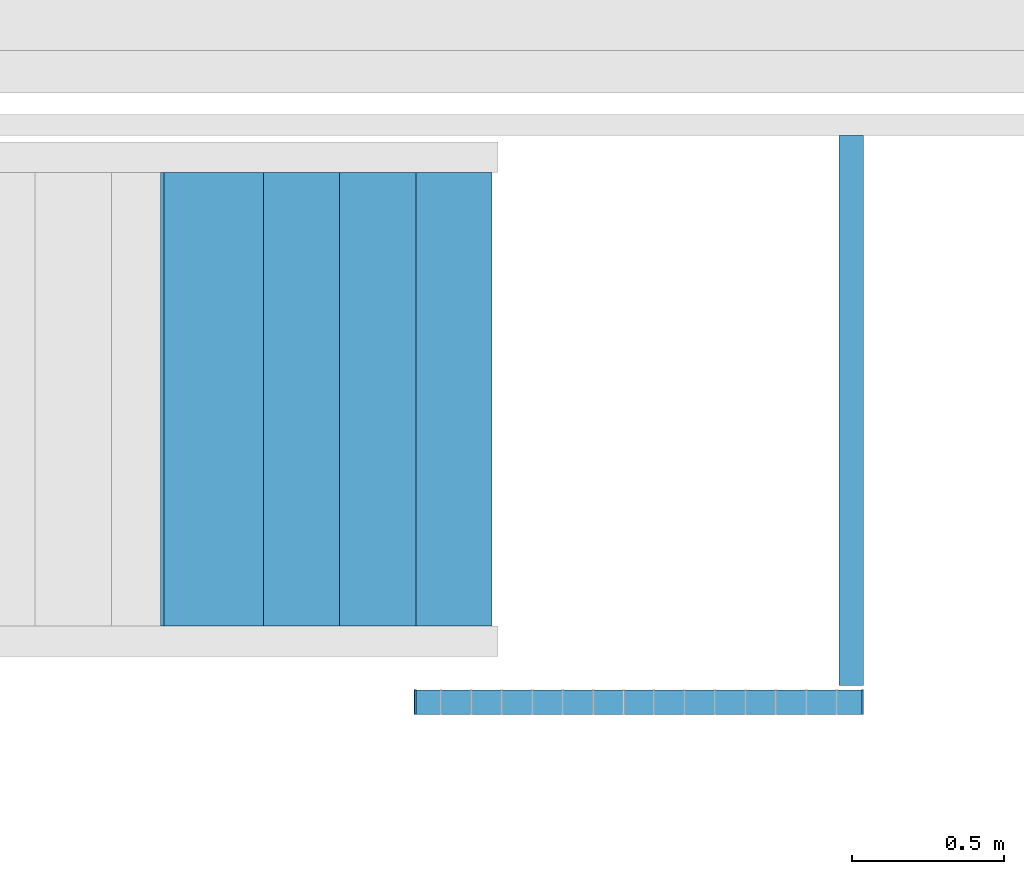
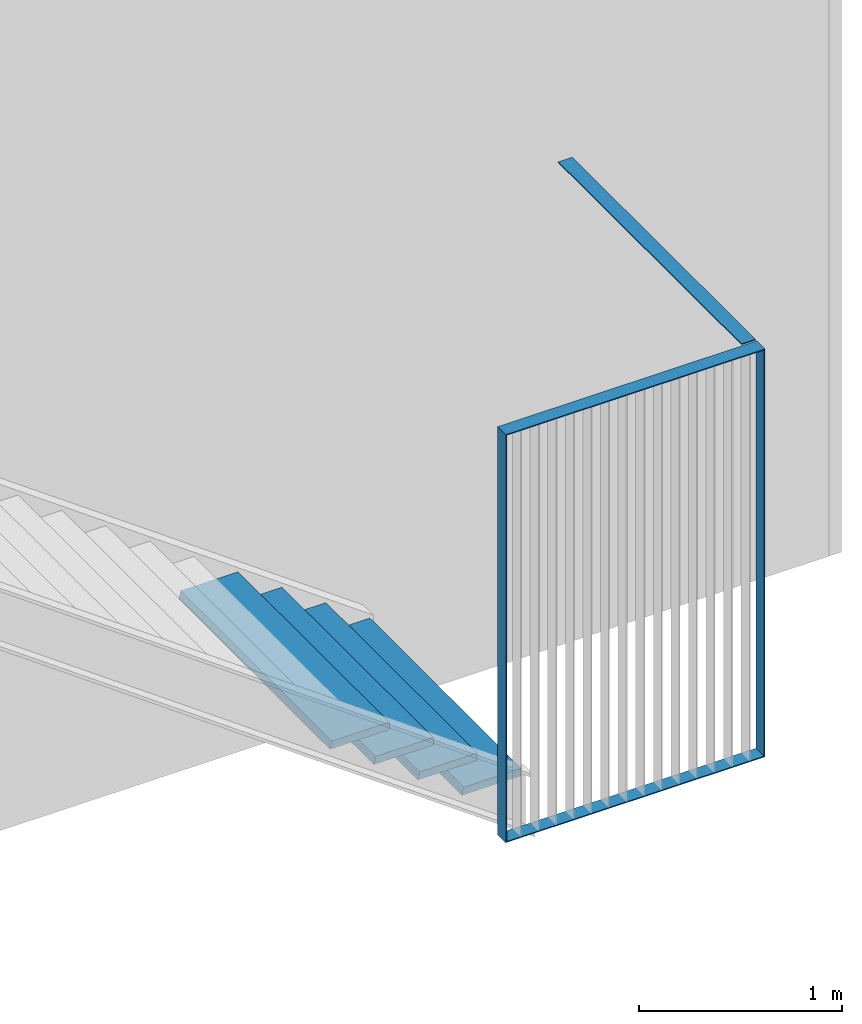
# One storey, part 30 of 347: 8 members, 1 beam, 2 elements without a shape of their own.
"""IFC2X3 building model written with IfcOpenShell, lengths in millimetres."""

from ifc_helpers import new_model, entity, si_unit, converted_unit, derived_unit, money_unit, direction, frame, origin_with_axes, place, context, subcontext, project, spatial, faceted_brep, material, type_object, element, aggregate, save


model = new_model("IFC2X3")

# Units and contexts
model_context = context("Model", 3, precision=0.01, world=origin_with_axes(), true_north=direction((0.0, 1.0)))
plan_context = context("Plan", 3, precision=0.01, world=origin_with_axes(), true_north=direction((0.0, 1.0)))
body_context = subcontext(model_context, "Body", "Model", "MODEL_VIEW")
ifc_project = project(units=[si_unit("LENGTHUNIT", "METRE", prefix="MILLI"), si_unit("AREAUNIT", "SQUARE_METRE"), si_unit("VOLUMEUNIT", "CUBIC_METRE"), converted_unit("PLANEANGLEUNIT", "DEGREE", entity("IfcPlaneAngleMeasure", 0.0174532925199), si_unit("PLANEANGLEUNIT", "RADIAN"), dimensions=[0, 0, 0, 0, 0, 0, 0]), money_unit("EUR"), converted_unit("TIMEUNIT", "Year", entity("IfcTimeMeasure", 31556926.0), si_unit("TIMEUNIT", "SECOND"), dimensions=[0, 0, 1, 0, 0, 0, 0]), si_unit("MASSUNIT", "GRAM", prefix="KILO"), si_unit("THERMODYNAMICTEMPERATUREUNIT", "DEGREE_CELSIUS"), si_unit("LUMINOUSINTENSITYUNIT", "LUMEN"), si_unit("ENERGYUNIT", "JOULE", prefix="MEGA"), derived_unit("THERMALCONDUCTANCEUNIT", [(si_unit("POWERUNIT", "WATT"), 1), (si_unit("LENGTHUNIT", "METRE"), -1), (si_unit("THERMODYNAMICTEMPERATUREUNIT", "KELVIN"), -1)]), derived_unit("SPECIFICHEATCAPACITYUNIT", [(si_unit("ENERGYUNIT", "JOULE"), 1), (si_unit("MASSUNIT", "GRAM", prefix="KILO"), -1), (si_unit("THERMODYNAMICTEMPERATUREUNIT", "KELVIN"), -1)]), derived_unit("MASSDENSITYUNIT", [(si_unit("MASSUNIT", "GRAM", prefix="KILO"), 1), (si_unit("VOLUMEUNIT", "CUBIC_METRE"), -1)])], contexts=[model_context, plan_context])

# Site, building, storey
site_placement = place(None, origin_with_axes())
site = spatial("IfcSite", under=ifc_project, at=site_placement, Name="Site", CompositionType="ELEMENT")
building_placement = place(site_placement, origin_with_axes())
building = spatial("IfcBuilding", under=site, at=building_placement, Name="Naam gebouw", CompositionType="ELEMENT")
storey_placement = place(building_placement, origin_with_axes())
storey = spatial("IfcBuildingStorey", under=building, at=storey_placement, Name="begane grond", CompositionType="ELEMENT", Elevation=0.0)

# Railing, members
railing_type = type_object("IfcRailingType", Name="Railing Type", PredefinedType="NOTDEFINED")
railing_placement = place(storey_placement, frame((53776.334071, 9964.99999938, 0.0), z_axis=(0.0, 0.0, 1.0), x_axis=(0.0, 1.0, 0.0)))
railing = element("IfcRailing", 1, at=railing_placement, inside=storey, type_object=railing_type, Name="_Reling-x", PredefinedType="NOTDEFINED")
ifc_material_1 = material(Name="Metaal - Aluminium")
member_type_1 = type_object("IfcMemberType", Name="IfcMember", PredefinedType="USERDEFINED")
member_1_placement = place(railing_placement, frame((0.0, 0.0, 0.0), z_axis=(0.0, 0.0, 1.0), x_axis=(0.0, -1.0, 0.0)))
member_1 = element("IfcMember", 2, at=member_1_placement, type_object=member_type_1, material=ifc_material_1, Name="_", context=body_context, shape_type="Brep", body=[
    faceted_brep([(-476.334135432, -15.0, 2400.0), (-470.334135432, -15.0, 2394.0), (-470.334135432, -15.0, -53.3920037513), (-476.334135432, -15.0, -53.3920037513), (-476.334135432, -95.0, 2400.0), (-470.334135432, -95.0, 2394.0), (-470.334135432, -95.0, -53.3920037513), (-476.334135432, -95.0, -53.3920037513)], [[[0, 1, 2, 3]], [[0, 4, 5, 1]], [[1, 5, 6, 2]], [[3, 2, 6, 7]], [[4, 0, 3, 7]], [[5, 4, 7, 6]]]),
])
member_2_placement = place(railing_placement, frame((0.0, 0.0, 0.0), z_axis=(0.0, 0.0, 1.0), x_axis=(0.0, -1.0, 0.0)))
member_2 = element("IfcMember", 3, at=member_2_placement, type_object=member_type_1, material=ifc_material_1, Name="_", context=body_context, shape_type="Brep", body=[
    faceted_brep([(998.665837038, -95.0, 2400.0), (992.665837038, -95.0, 2394.0), (992.665837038, -95.0, -50.0), (998.665837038, -95.0, -50.0), (998.665837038, -15.0, 2400.0), (992.665837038, -15.0, 2394.0), (992.665837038, -15.0, -50.0), (998.665837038, -15.0, -50.0)], [[[0, 1, 2, 3]], [[0, 4, 5, 1]], [[1, 5, 6, 2]], [[3, 2, 6, 7]], [[4, 0, 3, 7]], [[5, 4, 7, 6]]]),
])
member_3_placement = place(railing_placement, frame((-55.0, -261.165850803, 2359.55250317), z_axis=(0.0, 0.0, 1.0), x_axis=(0.0, -1.0, 0.0)))
member_3 = element("IfcMember", 4, at=member_3_placement, type_object=member_type_1, material=ifc_material_1, Name="_", context=body_context, shape_type="Brep", body=[
    faceted_brep([(-737.499986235, -40.0, 40.4474968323), (-731.499986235, -40.0, 34.4474968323), (731.499986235, -40.0, 34.4474968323), (737.499986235, -40.0, 40.4474968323), (-737.499986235, 40.0, 40.4474968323), (-731.499986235, 40.0, 34.4474968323), (731.499986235, 40.0, 34.4474968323), (737.499986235, 40.0, 40.4474968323)], [[[0, 1, 2, 3]], [[0, 4, 5, 1]], [[1, 5, 6, 2]], [[3, 2, 6, 7]], [[4, 0, 3, 7]], [[5, 4, 7, 6]]]),
])
ifc_material_2 = material(Name="Metaal - RVS")
member_4_placement = place(railing_placement, frame((-55.0, -261.165850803, -90.1123422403), z_axis=(0.0, 0.0, 1.0), x_axis=(0.0, -1.0, 0.0)))
member_4 = element("IfcMember", 5, at=member_4_placement, type_object=member_type_1, material=ifc_material_2, Name="_Regel-x", context=body_context, shape_type="Brep", body=[
    faceted_brep([(-737.499986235, -40.0, 43.1123422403), (-737.499986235, -40.0, 37.1123422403), (737.499986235, -40.0, 37.1123422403), (737.499986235, -40.0, 43.1123422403), (-737.499986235, 40.0, 43.1123422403), (-737.499986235, 40.0, 37.1123422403), (737.499986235, 40.0, 37.1123422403), (737.499986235, 40.0, 43.1123422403)], [[[0, 1, 2, 3]], [[0, 4, 5, 1]], [[1, 5, 6, 2]], [[3, 2, 6, 7]], [[4, 0, 3, 7]], [[5, 4, 7, 6]]]),
])
aggregate(railing, [member_1, member_2, member_3, member_4])

# Stair, members
stair_placement = place(storey_placement, frame((53554.999908, 11649.9999578, -50.0), z_axis=(0.0, 0.0, 1.0), x_axis=(1.0, 0.0, 0.0)))
stair = element("IfcStair", 6, at=stair_placement, inside=storey, Name="24_Trap-x", ShapeType="NOTDEFINED")
ifc_material_3 = material(Name="Metaal - Staal C wit")
member_type_2 = type_object("IfcMemberType", Name="IfcMember", PredefinedType="USERDEFINED")
member_5_placement = place(stair_placement, frame((0.0, -580.0, 180.0), z_axis=(0.0, 0.0, 1.0), x_axis=(0.0, 1.0, 0.0)))
member_5 = element("IfcMember", 7, at=member_5_placement, type_object=member_type_2, material=ifc_material_3, Name="44_Traptrede-x", context=body_context, shape_type="Brep", body=[
    faceted_brep([(-909.999957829, 338.230854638, -45.0), (-164.999978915, 338.230854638, -45.0), (580.0, 338.230854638, -45.0), (580.0, 0.0, -45.0), (-909.999957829, 0.0, -45.0), (-909.999957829, 326.173140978, 0.0), (-164.999978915, 326.173140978, 0.0), (580.0, 326.173140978, 0.0), (580.0, 0.0, 0.0), (-909.999957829, 0.0, 0.0)], [[[0, 1, 2, 3, 4]], [[1, 0, 5, 6, 7, 2]], [[7, 8, 3, 2]], [[8, 9, 4, 3]], [[5, 0, 4, 9]], [[6, 5, 9, 8, 7]]]),
])
member_6_placement = place(stair_placement, frame((-250.0, -580.0, 360.0), z_axis=(0.0, 0.0, 1.0), x_axis=(0.0, 1.0, 0.0)))
member_6 = element("IfcMember", 8, at=member_6_placement, type_object=member_type_2, material=ifc_material_3, Name="44_Traptrede-x", context=body_context, shape_type="Brep", body=[
    faceted_brep([(-909.999957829, 338.230854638, -45.0), (-164.999978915, 338.230854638, -45.0), (580.0, 338.230854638, -45.0), (580.0, 0.0, -45.0), (-909.999957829, 0.0, -45.0), (-909.999957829, 326.173140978, 0.0), (-164.999978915, 326.173140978, 0.0), (580.0, 326.173140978, 0.0), (580.0, 0.0, 0.0), (-909.999957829, 0.0, 0.0)], [[[0, 1, 2, 3, 4]], [[1, 0, 5, 6, 7, 2]], [[7, 8, 3, 2]], [[8, 9, 4, 3]], [[5, 0, 4, 9]], [[6, 5, 9, 8, 7]]]),
])
member_7_placement = place(stair_placement, frame((-500.0, -580.0, 540.0), z_axis=(0.0, 0.0, 1.0), x_axis=(0.0, 1.0, 0.0)))
member_7 = element("IfcMember", 9, at=member_7_placement, type_object=member_type_2, material=ifc_material_3, Name="44_Traptrede-x", context=body_context, shape_type="Brep", body=[
    faceted_brep([(-909.999957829, 338.230854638, -45.0), (-164.999978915, 338.230854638, -45.0), (580.0, 338.230854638, -45.0), (580.0, 0.0, -45.0), (-909.999957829, 0.0, -45.0), (-909.999957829, 326.173140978, 0.0), (-164.999978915, 326.173140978, 0.0), (580.0, 326.173140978, 0.0), (580.0, 0.0, 0.0), (-909.999957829, 0.0, 0.0)], [[[0, 1, 2, 3, 4]], [[1, 0, 5, 6, 7, 2]], [[7, 8, 3, 2]], [[8, 9, 4, 3]], [[5, 0, 4, 9]], [[6, 5, 9, 8, 7]]]),
])
member_8_placement = place(stair_placement, frame((-750.0, -580.0, 720.0), z_axis=(0.0, 0.0, 1.0), x_axis=(0.0, 1.0, 0.0)))
member_8 = element("IfcMember", 10, at=member_8_placement, type_object=member_type_2, material=ifc_material_3, Name="44_Traptrede-x", context=body_context, shape_type="Brep", body=[
    faceted_brep([(-909.999957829, 338.230854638, -45.0), (-164.999978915, 338.230854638, -45.0), (580.0, 338.230854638, -45.0), (580.0, 0.0, -45.0), (-909.999957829, 0.0, -45.0), (-909.999957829, 326.173140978, 0.0), (-164.999978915, 326.173140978, 0.0), (580.0, 326.173140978, 0.0), (580.0, 0.0, 0.0), (-909.999957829, 0.0, 0.0)], [[[0, 1, 2, 3, 4]], [[1, 0, 5, 6, 7, 2]], [[7, 8, 3, 2]], [[8, 9, 4, 3]], [[5, 0, 4, 9]], [[6, 5, 9, 8, 7]]]),
])
aggregate(stair, [member_5, member_6, member_7, member_8])

# Beam
ifc_material_4 = material(Name="Metaal - Staal C")
beam_type = type_object("IfcBeamType", Name="Metaal - Staal C 80 x 6", PredefinedType="BEAM")
beam_placement = place(storey_placement, frame((54774.999908, 9964.99999938, 2400.0), z_axis=(0.0, 0.0, 1.0), x_axis=(1.0, 0.0, 0.0)))
element("IfcBeam", 11, at=beam_placement, inside=storey, type_object=beam_type, material=ifc_material_4, Name="28_Balk-x", ObjectType="BEAM", context=body_context, shape_type="Brep", body=[
    faceted_brep([(0.0, 0.0, 0.0), (0.0, 1804.99993092, 0.0), (-80.0, 1804.99993092, 0.0), (-80.0, 0.0, 0.0), (0.0, 0.0, -6.0), (0.0, 1804.99993092, -6.0), (-80.0, 1804.99993092, -6.0), (-80.0, 0.0, -6.0)], [[[0, 1, 2, 3]], [[4, 5, 1, 0]], [[2, 1, 5, 6]], [[3, 2, 6, 7]], [[4, 0, 3, 7]], [[7, 6, 5, 4]]]),
])

save(model, "model.ifc")
